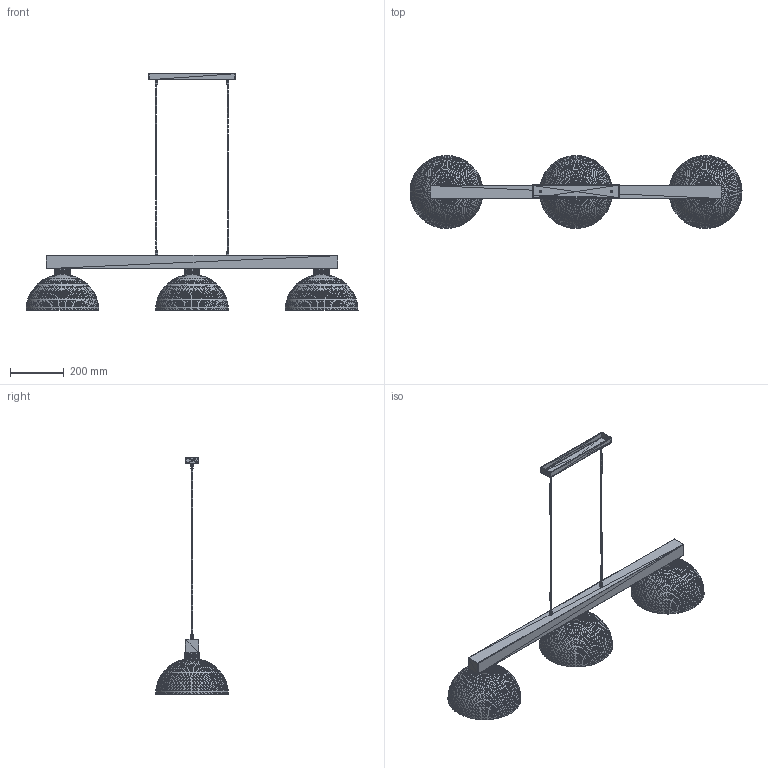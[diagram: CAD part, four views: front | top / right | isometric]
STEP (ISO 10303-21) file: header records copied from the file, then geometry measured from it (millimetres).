
FILE_DESCRIPTION(('FreeCAD Model'),'2;1');
FILE_NAME('Open CASCADE Shape Model','2022-11-30T08:16:21',('Author'),( ''),'Open CASCADE STEP processor 7.6','FreeCAD','Unknown');
FILE_SCHEMA(('AUTOMOTIVE_DESIGN { 1 0 10303 214 1 1 1 1 }'));
Length unit declared in the file: millimetre
Products named in the file (25): Unnamed; Mesh024 (Solid); Mesh001001 (Solid); Mesh002001 (Solid); Mesh003001 (Solid); Mesh004001 (Solid); Mesh005001 (Solid); Mesh006001 (Solid); Mesh007001 (Solid); Mesh008001 (Solid); Mesh009001 (Solid); Mesh010001 (Solid); Mesh011001 (Solid); Mesh012001 (Solid); Mesh013001 (Solid); Mesh014001 (Solid); Mesh015001 (Solid); Mesh016001 (Solid); Mesh017001 (Solid); Mesh018001 (Solid); Mesh019001 (Solid); Mesh020001 (Solid); Mesh021001 (Solid); Mesh022001 (Solid); Mesh023001 (Solid)
Assembly tree (24 placements, depth 2):
  Unnamed
    Mesh024 (Solid)
    Mesh001001 (Solid)
    Mesh002001 (Solid)
    Mesh003001 (Solid)
    Mesh004001 (Solid)
    Mesh005001 (Solid)
    Mesh006001 (Solid)
    Mesh007001 (Solid)
    Mesh008001 (Solid)
    Mesh009001 (Solid)
    Mesh010001 (Solid)
    Mesh011001 (Solid)
    Mesh012001 (Solid)
    Mesh013001 (Solid)
    Mesh014001 (Solid)
    Mesh015001 (Solid)
    Mesh016001 (Solid)
    Mesh017001 (Solid)
    Mesh018001 (Solid)
    Mesh019001 (Solid)
    Mesh020001 (Solid)
    Mesh021001 (Solid)
    Mesh022001 (Solid)
    Mesh023001 (Solid)
Bounding box: 1230.23 x 270.27 x 878.06 mm (x, y, z)
Volume: 3178360.8 mm3; surface area: 1025498.1 mm2
Topology: 13 solids, 24 shells, 22565 faces, 34020 edges, 11484 vertices
Faces by surface type: plane 22565
Entity records: 882211 total; most frequent: DIRECTION 146895, CARTESIAN_POINT 135789, LINE 101715, VECTOR 101715, ORIENTED_EDGE 67695, PCURVE 67695, DEFINITIONAL_REPRESENTATION 67695, EDGE_CURVE 34020
